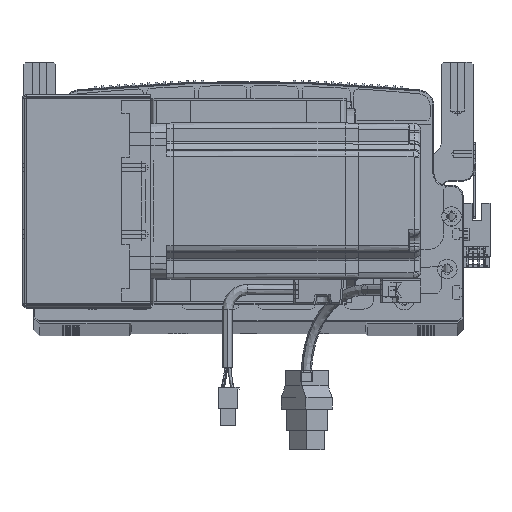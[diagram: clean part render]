
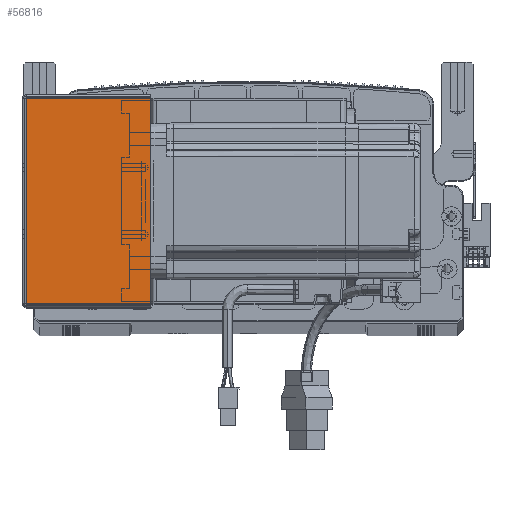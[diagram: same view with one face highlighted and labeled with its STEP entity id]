
A CAD part, top view. The second image highlights one B-rep face of the part: STEP entity #56816.
In plain terms, the highlighted planar face has unit normal (0, 0, 1) as drawn and (0, 0, -1) by its records, which use the part's own axes.
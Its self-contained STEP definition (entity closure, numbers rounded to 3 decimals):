
#5264 = FACE_OUTER_BOUND ( 'NONE', #102067, .T. ) ;
#7105 = DIRECTION ( 'NONE',  ( 0., -1., 0. ) ) ;
#9277 = LINE ( 'NONE', #14805, #28952 ) ;
#10778 = VERTEX_POINT ( 'NONE', #74632 ) ;
#12067 = DIRECTION ( 'NONE',  ( 1., 0., 0. ) ) ;
#12828 = VECTOR ( 'NONE', #7105, 1000. ) ;
#13665 = ORIENTED_EDGE ( 'NONE', *, *, #87632, .F. ) ;
#14805 = CARTESIAN_POINT ( 'NONE',  ( 0., 105.293, -205.5 ) ) ;
#16670 = AXIS2_PLACEMENT_3D ( 'NONE', #35172, #27230, #12067 ) ;
#17509 = ORIENTED_EDGE ( 'NONE', *, *, #34438, .T. ) ;
#21015 = VECTOR ( 'NONE', #70549, 1000. ) ;
#22235 = EDGE_CURVE ( 'NONE', #28787, #82731, #9277, .T. ) ;
#27230 = DIRECTION ( 'NONE',  ( 0., 0., 1. ) ) ;
#27646 = ORIENTED_EDGE ( 'NONE', *, *, #35374, .F. ) ;
#28457 = CARTESIAN_POINT ( 'NONE',  ( 0.737, 105.293, -205.5 ) ) ;
#28787 = VERTEX_POINT ( 'NONE', #28457 ) ;
#28952 = VECTOR ( 'NONE', #67612, 1000. ) ;
#31079 = VECTOR ( 'NONE', #46747, 1000. ) ;
#34438 = EDGE_CURVE ( 'NONE', #82731, #57079, #36287, .T. ) ;
#35172 = CARTESIAN_POINT ( 'NONE',  ( 0., 0., -205.5 ) ) ;
#35374 = EDGE_CURVE ( 'NONE', #28787, #10778, #57002, .T. ) ;
#36287 = LINE ( 'NONE', #46379, #12828 ) ;
#38522 = CARTESIAN_POINT ( 'NONE',  ( 64.5, 105.293, -205.5 ) ) ;
#46379 = CARTESIAN_POINT ( 'NONE',  ( 64.5, 0., -205.5 ) ) ;
#46747 = DIRECTION ( 'NONE',  ( 0., -1., 0. ) ) ;
#56816 = ADVANCED_FACE ( 'NONE', ( #5264 ), #99410, .F. ) ;
#57002 = LINE ( 'NONE', #102402, #31079 ) ;
#57079 = VERTEX_POINT ( 'NONE', #68225 ) ;
#65572 = ORIENTED_EDGE ( 'NONE', *, *, #22235, .T. ) ;
#67612 = DIRECTION ( 'NONE',  ( 1., 0., 0. ) ) ;
#68225 = CARTESIAN_POINT ( 'NONE',  ( 64.5, 0.707, -205.5 ) ) ;
#70549 = DIRECTION ( 'NONE',  ( 1., 0., 0. ) ) ;
#74632 = CARTESIAN_POINT ( 'NONE',  ( 0.737, 0.707, -205.5 ) ) ;
#77814 = CARTESIAN_POINT ( 'NONE',  ( 0., 0.707, -205.5 ) ) ;
#82731 = VERTEX_POINT ( 'NONE', #38522 ) ;
#87632 = EDGE_CURVE ( 'NONE', #10778, #57079, #92703, .T. ) ;
#92703 = LINE ( 'NONE', #77814, #21015 ) ;
#99410 = PLANE ( 'NONE',  #16670 ) ;
#102067 = EDGE_LOOP ( 'NONE', ( #27646, #65572, #17509, #13665 ) ) ;
#102402 = CARTESIAN_POINT ( 'NONE',  ( 0.737, 0., -205.5 ) ) ;
